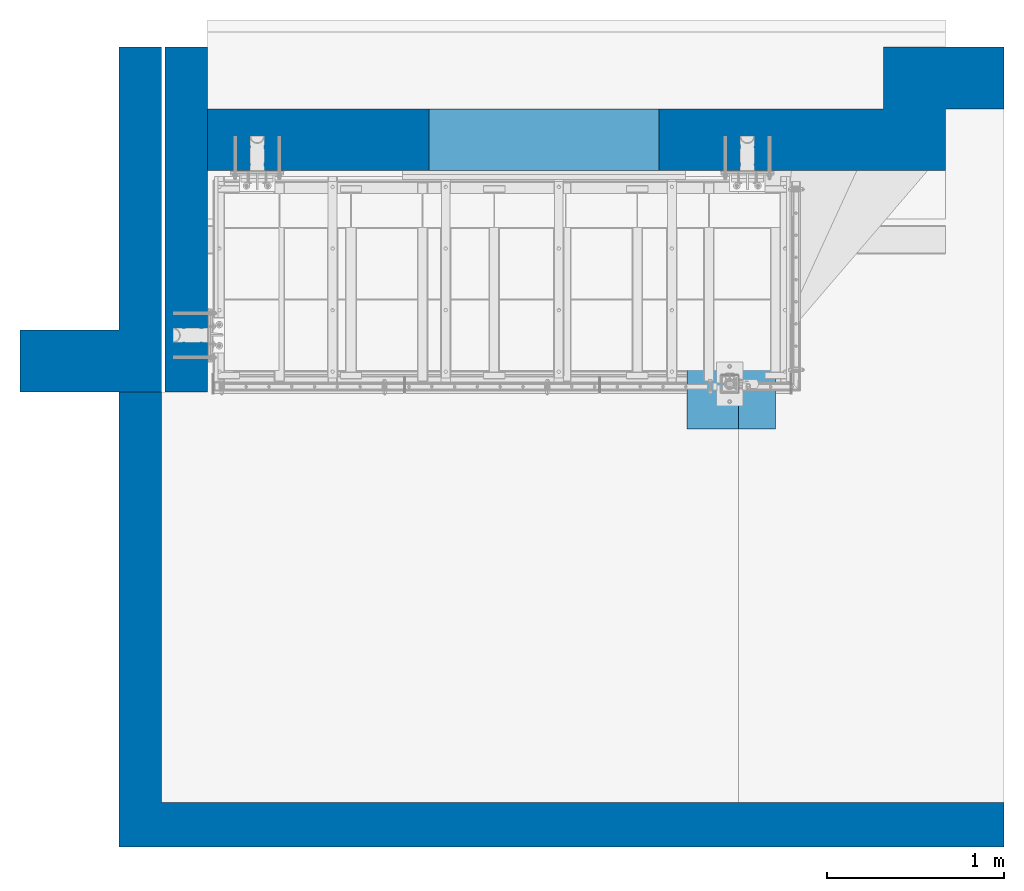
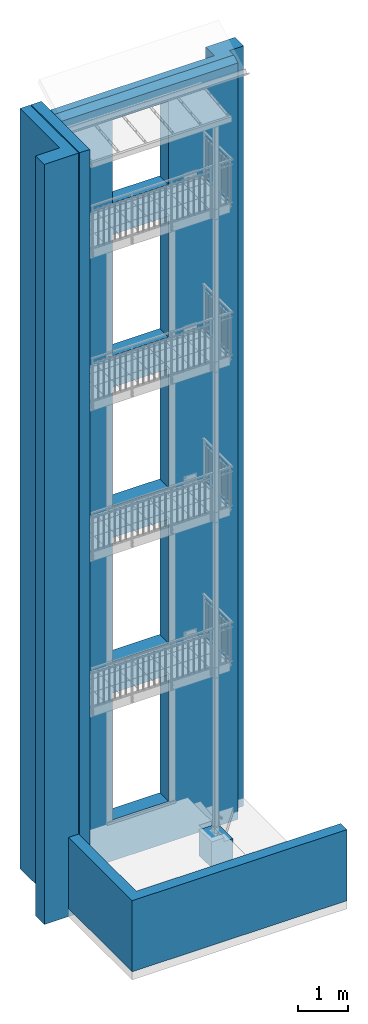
# One storey, part 68 of 162: 5 walls, 12 openings.
"""IFC2X3 building model written with IfcOpenShell, lengths in millimetres."""

import ifcopenshell
import ifcopenshell.guid

model = None  # the IFC model being written
_history = None  # IfcOwnerHistory: only IFC2X3 demands one
_inside = {}  # id of a spatial element -> (the spatial element, [elements in it])
_under = {}  # id of a project, library or spatial element -> (it, [spatial elements below it])
_declared = {}  # id of a project -> (the project, [libraries it declares])
_typed = {}  # id of a type object -> (the type object, [elements of that type])
_made_of = {}  # id of a material, layer set ... -> (it, [elements and type objects made of it])


def new_model(schema):
    """Start an empty IFC model of exactly this schema.

    Asked for "IFC4X3", IfcOpenShell would pick the latest addendum, in which some entities
    have other attributes; the version numbers below select the first issue.
    IFC2X3 requires an IfcOwnerHistory on every rooted entity: one is made here for all.
    """
    global model, _history
    if schema == "IFC4X3":
        model = ifcopenshell.file(schema_version=(4, 3, 0, 0))
    else:
        model = ifcopenshell.file(schema=schema)
    _inside.clear()
    _under.clear()
    _declared.clear()
    _typed.clear()
    _made_of.clear()
    _history = None
    if model.schema == "IFC2X3":
        org = make("IfcOrganization", Name="unknown")
        user = make(
            "IfcPersonAndOrganization",
            ThePerson=make("IfcPerson", FamilyName="unknown"),
            TheOrganization=org,
        )
        app = make(
            "IfcApplication",
            ApplicationDeveloper=org,
            Version="unknown",
            ApplicationFullName="unknown",
            ApplicationIdentifier="unknown",
        )
        _history = make(
            "IfcOwnerHistory",
            OwningUser=user,
            OwningApplication=app,
            ChangeAction="ADDED",
            CreationDate=0,
        )
    return model


def make(cls, **values):
    """One entity of the class cls with the attributes given. An attribute that is None is left unset."""
    return model.create_entity(
        cls, **{name: value for name, value in values.items() if value is not None}
    )


def entity(cls, *values):
    """Any entity or typed value of the class cls, its attributes in the order of the schema. None: left unset."""
    e = model.create_entity(cls)
    for i, value in enumerate(values):
        if value is not None:
            e[i] = value
    return e


def rooted(cls, **values):
    """An entity with a GlobalId (a new one), such as an element, a storey or a relation."""
    return make(cls, GlobalId=ifcopenshell.guid.new(), OwnerHistory=_history, **values)


def si_unit(unit_type, name, prefix=None):
    """IfcSIUnit, for example si_unit("LENGTHUNIT", "METRE", prefix="MILLI")."""
    return make("IfcSIUnit", UnitType=unit_type, Prefix=prefix, Name=name)


def converted_unit(unit_type, name, factor, base, dimensions=None, offset=None):
    """IfcConversionBasedUnit, such as the inch: factor (a typed value) times the base unit."""
    return make(
        "IfcConversionBasedUnit"
        if offset is None
        else "IfcConversionBasedUnitWithOffset",
        ConversionOffset=offset,
        Dimensions=None
        if dimensions is None
        else entity("IfcDimensionalExponents", *dimensions),
        UnitType=unit_type,
        Name=name,
        ConversionFactor=make(
            "IfcMeasureWithUnit", ValueComponent=factor, UnitComponent=base
        ),
    )


def assignment(units):
    """IfcUnitAssignment: the units of a project."""
    return None if units is None else make("IfcUnitAssignment", Units=units)


def point(xyz):
    """IfcCartesianPoint."""
    return None if xyz is None else make("IfcCartesianPoint", Coordinates=xyz)


def direction(xyz):
    """IfcDirection."""
    return None if xyz is None else make("IfcDirection", DirectionRatios=xyz)


def frame(location, z_axis=None, x_axis=None):
    """IfcAxis2Placement3D, a coordinate frame: its origin and axes. An axis left out is left unset."""
    return make(
        "IfcAxis2Placement3D",
        Location=point(location),
        Axis=direction(z_axis),
        RefDirection=direction(x_axis),
    )


def origin():
    """The frame at (0, 0, 0) with its axes left unset."""
    return frame((0.0, 0.0, 0.0))


def origin_with_axes():
    """The frame at (0, 0, 0) with the z axis (0, 0, 1) and the x axis (1, 0, 0) written out."""
    return frame((0.0, 0.0, 0.0), z_axis=(0.0, 0.0, 1.0), x_axis=(1.0, 0.0, 0.0))


def place(relative_to, where):
    """IfcLocalPlacement: puts the frame where relative to a parent placement (None: the world)."""
    return make(
        "IfcLocalPlacement", PlacementRelTo=relative_to, RelativePlacement=where
    )


def context(
    kind, dimensions, precision=None, world=None, true_north=None, identifier=None
):
    """IfcGeometricRepresentationContext, for example the 3D "Model" context."""
    return make(
        "IfcGeometricRepresentationContext",
        ContextIdentifier=identifier,
        ContextType=kind,
        CoordinateSpaceDimension=dimensions,
        Precision=precision,
        WorldCoordinateSystem=world,
        TrueNorth=true_north,
    )


def project(units=None, contexts=None):
    """IfcProject with its units and contexts."""
    return rooted(
        "IfcProject",
        Name="project",
        RepresentationContexts=contexts,
        UnitsInContext=assignment(units),
    )


def spatial(cls, under=None, at=None, **own):
    """A site, building, storey or space (cls), placed at a placement, below another one or the project."""
    s = rooted(cls, ObjectPlacement=at, **own)
    if under is not None:
        _under.setdefault(under.id(), (under, []))[1].append(s)
    return s


def polyline(points):
    """IfcPolyline through the points."""
    return make("IfcPolyline", Points=[point(p) for p in points])


def outline(outer, holes=None, kind="AREA"):
    """IfcArbitraryClosedProfileDef: a profile drawn as a closed curve; with holes, ...WithVoids."""
    if holes is None:
        return make("IfcArbitraryClosedProfileDef", ProfileType=kind, OuterCurve=outer)
    return make(
        "IfcArbitraryProfileDefWithVoids",
        ProfileType=kind,
        OuterCurve=outer,
        InnerCurves=holes,
    )


def extrude(swept, where, along, depth):
    """IfcExtrudedAreaSolid: the profile swept, set in the frame where, extruded along a direction by depth."""
    return make(
        "IfcExtrudedAreaSolid",
        SweptArea=swept,
        Position=where,
        ExtrudedDirection=direction(along),
        Depth=depth,
    )


def shape(context_of_items, identifier, shape_type, items):
    """IfcShapeRepresentation: the items that make up one representation, for example the "Body"."""
    return make(
        "IfcShapeRepresentation",
        ContextOfItems=context_of_items,
        RepresentationIdentifier=identifier,
        RepresentationType=shape_type,
        Items=items,
    )


def material(Name=None, Category=None):
    """IfcMaterial."""
    return make("IfcMaterial", Name=Name, Category=Category)


def layer(
    of_material, thickness, ventilated=None, Name=None, Category=None, Priority=None
):
    """IfcMaterialLayer: one layer of a wall or slab, of a material (None: an air gap)."""
    return make(
        "IfcMaterialLayer",
        Material=of_material,
        LayerThickness=thickness,
        IsVentilated=ventilated,
        Name=Name,
        Category=Category,
        Priority=Priority,
    )


def layer_set(layers, Name=None):
    """IfcMaterialLayerSet."""
    return make("IfcMaterialLayerSet", MaterialLayers=layers, LayerSetName=Name)


def made_of(thing, what):
    """Note that an element or type object is made of a material, layer set ...; save() writes the relation."""
    if what is not None:
        _made_of.setdefault(what.id(), (what, []))[1].append(thing)
    return thing


def element(
    cls,
    number,
    at=None,
    inside=None,
    cuts=None,
    type_object=None,
    material=None,
    context=None,
    identifier="Body",
    shape_type=None,
    held_by="IfcProductDefinitionShape",
    body=None,
    shapes=None,
    **own,
):
    """One element of the class cls, such as IfcWall. Its Tag is "e" and its number.

    at: its placement. inside: the storey or other place that contains it. cuts: it is an
    opening in that element (IfcRelVoidsElement). A single representation is given by context,
    identifier, shape_type and body (its items); several are given by shapes. held_by: the class
    of the entity that holds the representations. save() writes the other relations.
    """
    e = rooted(cls, Tag="e%d" % number, ObjectPlacement=at, **own)
    if body is not None:
        shapes = [shape(context, identifier, shape_type, body)]
    if shapes is not None:
        e.Representation = make(held_by, Representations=shapes)
    if inside is not None:
        _inside.setdefault(inside.id(), (inside, []))[1].append(e)
    if cuts is not None:
        rooted(
            "IfcRelVoidsElement", RelatingBuildingElement=cuts, RelatedOpeningElement=e
        )
    if type_object is not None:
        _typed.setdefault(type_object.id(), (type_object, []))[1].append(e)
    return made_of(e, material)


def aggregate(whole, parts):
    """IfcRelAggregates: a whole, such as a stair, and the parts it consists of."""
    return rooted("IfcRelAggregates", RelatingObject=whole, RelatedObjects=parts)


def save(model, path):
    """Write the relations noted so far, then the file.

    IfcRelAggregates (storeys below a building ...), IfcRelContainedInSpatialStructure (elements
    in a storey), IfcRelDefinesByType, IfcRelAssociatesMaterial and IfcRelDeclares: one each for
    every whole, place, type object, material and project.
    """
    for whole, parts in _under.values():
        aggregate(whole, parts)
    for where, things in _inside.values():
        rooted(
            "IfcRelContainedInSpatialStructure",
            RelatedElements=things,
            RelatingStructure=where,
        )
    for kind, things in _typed.values():
        rooted("IfcRelDefinesByType", RelatedObjects=things, RelatingType=kind)
    for what, things in _made_of.values():
        rooted("IfcRelAssociatesMaterial", RelatedObjects=things, RelatingMaterial=what)
    for by, libraries in _declared.values():
        rooted("IfcRelDeclares", RelatingContext=by, RelatedDefinitions=libraries)
    model.write(path)


model = new_model("IFC2X3")

# Units and contexts
model_context = context("Model", 3, precision=1e-09, world=origin_with_axes())
ifc_project = project(units=[si_unit("LENGTHUNIT", "METRE", prefix="MILLI"), si_unit("AREAUNIT", "SQUARE_METRE"), si_unit("VOLUMEUNIT", "CUBIC_METRE"), converted_unit("PLANEANGLEUNIT", "DEGREE", entity("IfcPlaneAngleMeasure", 0.01745329), si_unit("PLANEANGLEUNIT", "RADIAN"), dimensions=[0, 0, 0, 0, 0, 0, 0])], contexts=[model_context])

# Site, building, storey
site_placement = place(None, origin_with_axes())
site = spatial("IfcSite", under=ifc_project, at=site_placement, Name="Hermannstra?e 1a, 60318 Frankfurt", CompositionType="ELEMENT")
building_placement = place(site_placement, origin_with_axes())
building = spatial("IfcBuilding", under=site, at=building_placement, Name="Struktur 1", CompositionType="ELEMENT")
storey_placement = place(building_placement, origin_with_axes())
storey = spatial("IfcBuildingStorey", under=building, at=storey_placement, Name="Default Storey", CompositionType="ELEMENT", Elevation=0.0)

# Wall, opening
ifc_material = material(Name="C25/30")
ifc_layer_1 = layer(ifc_material, 800.0)
ifc_layer_set_1 = layer_set([ifc_layer_1], Name="C25/30")
wall_1_placement = place(None, frame((1463.30836482, 2460.609373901, 8400.0), z_axis=(1.0, 0.0, 0.0), x_axis=(0.0, 1.0, 0.0)))
wall_1 = element("IfcWall", 1, at=wall_1_placement, inside=storey, material=ifc_layer_set_1, Name="-", ObjectType="-", context=model_context, shape_type="SweptSolid", body=[
    extrude(outline(polyline([(-975.0, -9350.0), (975.0, -9350.0), (975.0, 9350.0), (-975.0, 9350.0), (-975.0, -9350.0)])), origin_with_axes(), (0.0, 0.0, 1.0), 800.0),
])
opening_1_placement = place(wall_1_placement, frame((0.0, -9350.1, 400.0), z_axis=(0.0, 1.0, 0.0), x_axis=(0.0, 0.0, 1.0)))
element("IfcOpeningElement", 2, at=opening_1_placement, cuts=wall_1, ObjectType="Opening", context=model_context, shape_type="SweptSolid", body=[
    extrude(outline(polyline([(-1119.568787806, -625.001), (160.001, -625.001), (160.001, 1567.819783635), (-1119.568787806, 1567.819783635), (-1119.568787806, -625.001)])), origin(), (0.0, 0.0, 1.0), 18700.2),
])

# Wall
ifc_layer_2 = layer(ifc_material, 240.0)
ifc_layer_set_2 = layer_set([ifc_layer_2], Name="C25/30")
wall_2_placement = place(None, frame((2283.30836482, 2460.609373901, 8400.0), z_axis=(1.0, 0.0, 0.0), x_axis=(0.0, 1.0, 0.0)))
element("IfcWall", 3, at=wall_2_placement, inside=storey, material=ifc_layer_set_2, Name="-", ObjectType="-", context=model_context, shape_type="SweptSolid", body=[
    extrude(outline(polyline([(-975.0, -9350.0), (975.0, -9350.0), (975.0, 9350.0), (-975.0, 9350.0), (-975.0, -9350.0)])), origin_with_axes(), (0.0, 0.0, 1.0), 240.0),
])

# Wall, openings
ifc_layer_3 = layer(ifc_material, 700.0)
ifc_layer_set_3 = layer_set([ifc_layer_3], Name="C25/30")
wall_3_placement = place(None, frame((4858.30836482, 3435.609373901, 8400.0), z_axis=(0.0, -1.0, 0.0), x_axis=(1.0, 0.0, 0.0)))
wall_3 = element("IfcWall", 4, at=wall_3_placement, inside=storey, material=ifc_layer_set_3, Name="-", ObjectType="-", context=model_context, shape_type="SweptSolid", body=[
    extrude(outline(polyline([(-2335.0, -9350.0), (2335.0, -9350.0), (2335.0, 9350.0), (-2335.0, 9350.0), (-2335.0, -9350.0)])), origin_with_axes(), (0.0, 0.0, 1.0), 700.0),
])
opening_2_placement = place(wall_3_placement, frame((0.0, -9350.1, 350.0), z_axis=(0.0, 1.0, 0.0), x_axis=(1.0, 0.0, 0.0)))
element("IfcOpeningElement", 5, at=opening_2_placement, cuts=wall_3, ObjectType="Opening", context=model_context, shape_type="SweptSolid", body=[
    extrude(outline(polyline([(1834.999, -693.330311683), (2621.886192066, -693.330311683), (2621.886192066, 0.001), (1834.999, 0.001), (1834.999, -693.330311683)])), origin(), (0.0, 0.0, 1.0), 18700.2),
])
opening_3_placement = place(wall_3_placement, frame((0.0, -9350.1, 350.0), z_axis=(0.0, 1.0, 0.0), x_axis=(1.0, 0.0, 0.0)))
element("IfcOpeningElement", 6, at=opening_3_placement, cuts=wall_3, ObjectType="Opening", context=model_context, shape_type="SweptSolid", body=[
    extrude(outline(polyline([(-2877.720007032, 0.0), (1485.001, 0.0), (1485.001, 540.207296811), (-2877.720007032, 540.207296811), (-2877.720007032, 0.0)])), origin(), (0.0, 0.0, 1.0), 18700.2),
])
opening_4_placement = place(wall_3_placement, frame((0.0, -9350.1, 350.0), z_axis=(0.0, 1.0, 0.0), x_axis=(1.0, 0.0, 0.0)))
element("IfcOpeningElement", 7, at=opening_4_placement, cuts=wall_3, ObjectType="Opening", context=model_context, shape_type="SweptSolid", body=[
    extrude(outline(polyline([(2164.999, -4045.0015), (3732.578838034, -4045.0015), (3732.578838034, 887.832128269), (2164.999, 887.832128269), (2164.999, -4045.0015)])), origin(), (0.0, 0.0, 1.0), 18700.2),
])
opening_5_placement = place(wall_3_placement, frame((0.0, 0.0, -0.1), z_axis=(0.0, 0.0, 1.0), x_axis=(1.0, 0.0, 0.0)))
element("IfcOpeningElement", 8, at=opening_5_placement, cuts=wall_3, ObjectType="Opening", context=model_context, shape_type="SweptSolid", body=[
    extrude(outline(polyline([(-1085.001, -8340.001), (215.001, -8340.001), (215.001, -5224.999), (-1085.001, -5224.999), (-1085.001, -8340.001)])), origin(), (0.0, 0.0, 1.0), 700.2),
])
opening_6_placement = place(wall_3_placement, frame((0.0, 0.0, -0.1), z_axis=(0.0, 0.0, 1.0), x_axis=(1.0, 0.0, 0.0)))
element("IfcOpeningElement", 9, at=opening_6_placement, cuts=wall_3, ObjectType="Opening", context=model_context, shape_type="SweptSolid", body=[
    extrude(outline(polyline([(-1085.001, -4445.001), (215.001, -4445.001), (215.001, -1399.999), (-1085.001, -1399.999), (-1085.001, -4445.001)])), origin(), (0.0, 0.0, 1.0), 700.2),
])
opening_7_placement = place(wall_3_placement, frame((0.0, 0.0, -0.1), z_axis=(0.0, 0.0, 1.0), x_axis=(1.0, 0.0, 0.0)))
element("IfcOpeningElement", 10, at=opening_7_placement, cuts=wall_3, ObjectType="Opening", context=model_context, shape_type="SweptSolid", body=[
    extrude(outline(polyline([(-1085.001, -620.001), (215.001, -620.001), (215.001, 2300.001), (-1085.001, 2300.001), (-1085.001, -620.001)])), origin(), (0.0, 0.0, 1.0), 700.2),
])
opening_8_placement = place(wall_3_placement, frame((0.0, 0.0, -0.1), z_axis=(0.0, 0.0, 1.0), x_axis=(1.0, 0.0, 0.0)))
element("IfcOpeningElement", 11, at=opening_8_placement, cuts=wall_3, ObjectType="Opening", context=model_context, shape_type="SweptSolid", body=[
    extrude(outline(polyline([(-1085.001, 3079.999), (215.001, 3079.999), (215.001, 6057.001), (-1085.001, 6057.001), (-1085.001, 3079.999)])), origin(), (0.0, 0.0, 1.0), 700.2),
])
opening_9_placement = place(wall_3_placement, frame((0.0, 0.0, -0.1), z_axis=(0.0, 0.0, 1.0), x_axis=(1.0, 0.0, 0.0)))
element("IfcOpeningElement", 12, at=opening_9_placement, cuts=wall_3, ObjectType="Opening", context=model_context, shape_type="SweptSolid", body=[
    extrude(outline(polyline([(-1085.001, 6836.999), (215.001, 6836.999), (215.001, 8877.001), (-1085.001, 8877.001), (-1085.001, 6836.999)])), origin(), (0.0, 0.0, 1.0), 700.2),
])
opening_10_placement = place(wall_3_placement, frame((-2335.1, 0.0, 350.0), z_axis=(1.0, 0.0, 0.0), x_axis=(0.0, 0.0, -1.0)))
element("IfcOpeningElement", 13, at=opening_10_placement, cuts=wall_3, ObjectType="Opening", context=model_context, shape_type="SweptSolid", body=[
    extrude(outline(polyline([(-509.984336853, 9173.934651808), (41.824849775, 9467.336800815), (-591.131056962, 9467.336800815), (-509.984336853, 9173.934651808)])), origin(), (0.0, 0.0, 1.0), 4670.2),
])

# Wall, opening
ifc_layer_4 = layer(ifc_material, 500.0)
ifc_layer_set_4 = layer_set([ifc_layer_4], Name="C25/30")
wall_4_placement = place(None, frame((5483.30836482, 1775.609373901, -430.0), z_axis=(0.0, -1.0, 0.0), x_axis=(1.0, 0.0, 0.0)))
wall_4 = element("IfcWall", 14, at=wall_4_placement, inside=storey, material=ifc_layer_set_4, Name="-", ObjectType="-", context=model_context, shape_type="SweptSolid", body=[
    extrude(outline(polyline([(-250.0, -320.0), (250.0, -320.0), (250.0, 320.0), (-250.0, 320.0), (-250.0, -320.0)])), origin_with_axes(), (0.0, 0.0, 1.0), 500.0),
])
opening_11_placement = place(wall_4_placement, frame((0.0, 0.0, -0.1), z_axis=(0.0, 0.0, 1.0), x_axis=(1.0, 0.0, 0.0)))
element("IfcOpeningElement", 15, at=opening_11_placement, cuts=wall_4, ObjectType="Opening", context=model_context, shape_type="SweptSolid", body=[
    extrude(outline(polyline([(39.999, 229.999), (310.172650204, 229.999), (310.172650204, 430.001), (39.999, 430.001), (39.999, 229.999)])), origin(), (0.0, 0.0, 1.0), 500.2),
])

ifc_layer_5 = layer(ifc_material, 5000.0)
ifc_layer_set_5 = layer_set([ifc_layer_5], Name="C25/30")
wall_5_placement = place(None, frame((7023.30836482, 200.609373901, 125.0), z_axis=(-1.0, 0.0, 0.0), x_axis=(0.0, -1.0, 0.0)))
wall_5 = element("IfcWall", 16, at=wall_5_placement, inside=storey, material=ifc_layer_set_5, Name="-", ObjectType="-", context=model_context, shape_type="SweptSolid", body=[
    extrude(outline(polyline([(-1285.0, -875.0), (1285.0, -875.0), (1285.0, 875.0), (-1285.0, 875.0), (-1285.0, -875.0)])), origin_with_axes(), (0.0, 0.0, 1.0), 5000.0),
])
opening_12_placement = place(wall_5_placement, frame((0.0, -875.1, 2500.0), z_axis=(0.0, 1.0, 0.0), x_axis=(0.0, 0.0, -1.0)))
element("IfcOpeningElement", 17, at=opening_12_placement, cuts=wall_5, ObjectType="Opening", context=model_context, shape_type="SweptSolid", body=[
    extrude(outline(polyline([(-2260.001, -1035.001), (2934.917026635, -1035.001), (2934.917026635, 1764.619072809), (-2260.001, 1764.619072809), (-2260.001, -1035.001)])), origin(), (0.0, 0.0, 1.0), 1750.2),
])

save(model, "model.ifc")
